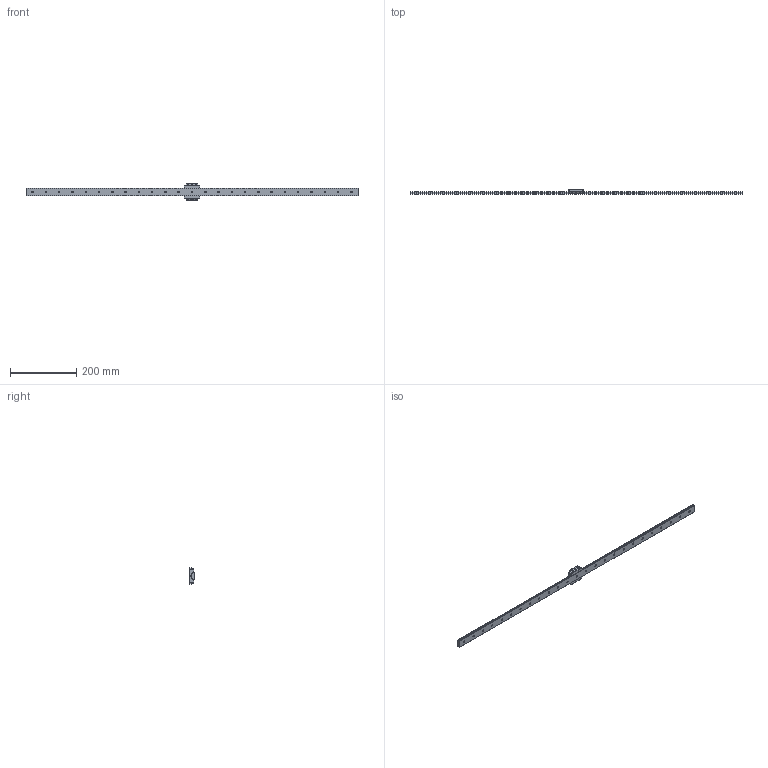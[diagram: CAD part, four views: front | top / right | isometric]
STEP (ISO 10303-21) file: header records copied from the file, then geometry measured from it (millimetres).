
FILE_DESCRIPTION( ( '' ), '1' );
FILE_NAME( 'C:/Users/v3-771-32344/Documents/Website 2016/STEP/SHW14CAM1UU1000200477.25000.stp', '2016-11-10T12:43:15', ( '' ), ( '' ), ' ', ' ', ' ' );
FILE_SCHEMA( ( 'CONFIG_CONTROL_DESIGN' ) );
Length unit declared in the file: millimetre
Products named in the file (2): 1; 2
Bounding box: 1000 x 14 x 50 mm (x, y, z)
Volume: 179834.3 mm3; surface area: 73658 mm2
Topology: 2 solids, 2 shells, 317 faces, 842 edges, 556 vertices
Faces by surface type: cylinder 172, plane 129, cone 16
Entity records: 10412 total; most frequent: CARTESIAN_POINT 1969, DIRECTION 1838, ORIENTED_EDGE 1684, EDGE_CURVE 842, AXIS2_PLACEMENT_3D 695, VERTEX_POINT 556, LINE 448, VECTOR 448
